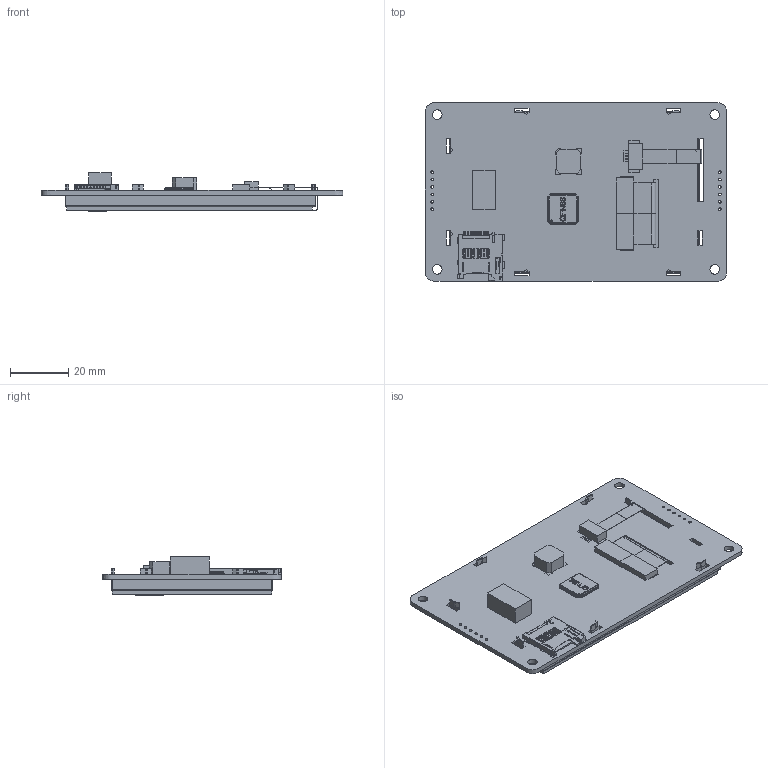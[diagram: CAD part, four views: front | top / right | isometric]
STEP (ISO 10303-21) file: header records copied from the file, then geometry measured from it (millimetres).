
FILE_DESCRIPTION(/* description */ (''),/* implementation_level */ '2;1');
FILE_NAME(/* name */ '',/* time_stamp */ '2023-06-27T18:13:42+08:00',/* author */ (''),/* organization */ (''),/* preprocessor_version */ 'ST-DEVELOPER v11',/* originating_system */ 'SIEMENS PLM Software NX 7.5',/* authorisation */ '');
FILE_SCHEMA (('AP203_CONFIGURATION_CONTROLLED_3D_DESIGN_OF_MECHANICAL_PARTS_AND_ASSEMBLIES_MIM_LF'));
Products named in the file (1): SDWb035T03T-SSJ
Bounding box: 103.3 x 61.1 x 13.1 mm (x, y, z)
Volume: 46317.4 mm3; surface area: 64234 mm2
Topology: 33 solids, 33 shells, 2477 faces, 6967 edges, 4587 vertices
Faces by surface type: plane 2038, cylinder 430, bspline 7, cone 1, extrusion 1
Full cylindrical faces by diameter (mm): 0.9 x12, 3.3 x4
Entity records: 80880 total; most frequent: CARTESIAN_POINT 14729, ORIENTED_EDGE 13900, DIRECTION 12586, EDGE_CURVE 6950, VECTOR 5986, LINE 5985, VERTEX_POINT 4587, AXIS2_PLACEMENT_3D 3300
